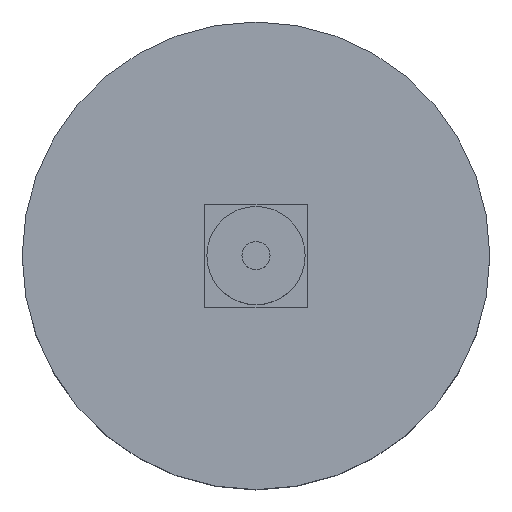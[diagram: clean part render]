
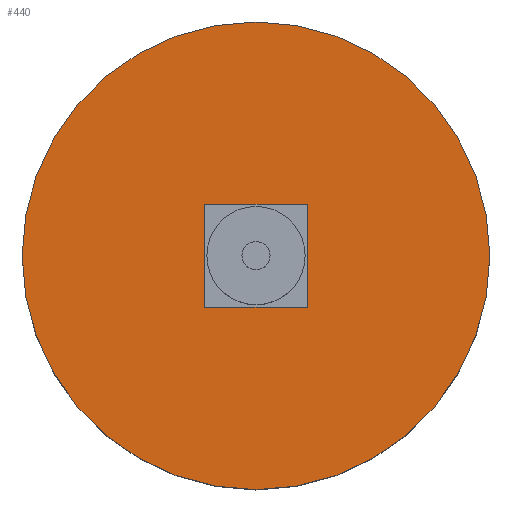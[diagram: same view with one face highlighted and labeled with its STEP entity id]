
A CAD part, top view. The second image highlights one B-rep face of the part: STEP entity #440.
In plain terms, the highlighted planar face has unit normal (0, 0, 1).
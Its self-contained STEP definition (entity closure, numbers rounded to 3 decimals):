
#3 = VECTOR ( 'NONE', #49, 1000. ) ;
#18 = CARTESIAN_POINT ( 'NONE',  ( -11., -11., 44. ) ) ;
#20 = EDGE_CURVE ( 'NONE', #68, #161, #21, .T. ) ;
#21 = LINE ( 'NONE', #163, #23 ) ;
#23 = VECTOR ( 'NONE', #132, 1000. ) ;
#39 = CARTESIAN_POINT ( 'NONE',  ( -11., -11., 44. ) ) ;
#40 = ORIENTED_EDGE ( 'NONE', *, *, #370, .T. ) ;
#42 = ORIENTED_EDGE ( 'NONE', *, *, #20, .F. ) ;
#48 = VERTEX_POINT ( 'NONE', #357 ) ;
#49 = DIRECTION ( 'NONE',  ( 1., 0., 0. ) ) ;
#68 = VERTEX_POINT ( 'NONE', #464 ) ;
#85 = EDGE_CURVE ( 'NONE', #491, #48, #355, .T. ) ;
#92 = DIRECTION ( 'NONE',  ( 1., 0., 0. ) ) ;
#94 = CARTESIAN_POINT ( 'NONE',  ( 11., 11., 44. ) ) ;
#97 = EDGE_CURVE ( 'NONE', #161, #491, #389, .T. ) ;
#105 = PLANE ( 'NONE',  #445 ) ;
#112 = EDGE_LOOP ( 'NONE', ( #40, #266 ) ) ;
#132 = DIRECTION ( 'NONE',  ( 0., -1., 0. ) ) ;
#139 = CARTESIAN_POINT ( 'NONE',  ( 0., 0., 44. ) ) ;
#145 = CARTESIAN_POINT ( 'NONE',  ( 50., 0., 44. ) ) ;
#146 = AXIS2_PLACEMENT_3D ( 'NONE', #213, #254, #92 ) ;
#154 = CIRCLE ( 'NONE', #146, 50. ) ;
#161 = VERTEX_POINT ( 'NONE', #39 ) ;
#163 = CARTESIAN_POINT ( 'NONE',  ( -11., 11., 44. ) ) ;
#195 = CARTESIAN_POINT ( 'NONE',  ( -11., 11., 44. ) ) ;
#213 = CARTESIAN_POINT ( 'NONE',  ( 0., 0., 44. ) ) ;
#226 = EDGE_LOOP ( 'NONE', ( #411, #302, #42, #284 ) ) ;
#254 = DIRECTION ( 'NONE',  ( 0., 0., 1. ) ) ;
#266 = ORIENTED_EDGE ( 'NONE', *, *, #360, .T. ) ;
#278 = DIRECTION ( 'NONE',  ( 0., 1., 0. ) ) ;
#284 = ORIENTED_EDGE ( 'NONE', *, *, #286, .F. ) ;
#286 = EDGE_CURVE ( 'NONE', #48, #68, #303, .T. ) ;
#291 = DIRECTION ( 'NONE',  ( 0., 0., 1. ) ) ;
#302 = ORIENTED_EDGE ( 'NONE', *, *, #97, .F. ) ;
#303 = LINE ( 'NONE', #195, #433 ) ;
#304 = VECTOR ( 'NONE', #278, 1000. ) ;
#305 = VERTEX_POINT ( 'NONE', #426 ) ;
#307 = AXIS2_PLACEMENT_3D ( 'NONE', #139, #291, #472 ) ;
#312 = DIRECTION ( 'NONE',  ( -1., 0., 0. ) ) ;
#331 = CARTESIAN_POINT ( 'NONE',  ( 0., 0., 44. ) ) ;
#333 = FACE_OUTER_BOUND ( 'NONE', #112, .T. ) ;
#338 = DIRECTION ( 'NONE',  ( 1., 0., 0. ) ) ;
#350 = CARTESIAN_POINT ( 'NONE',  ( 11., -11., 44. ) ) ;
#355 = LINE ( 'NONE', #94, #304 ) ;
#357 = CARTESIAN_POINT ( 'NONE',  ( 11., 11., 44. ) ) ;
#360 = EDGE_CURVE ( 'NONE', #416, #305, #439, .T. ) ;
#370 = EDGE_CURVE ( 'NONE', #305, #416, #154, .T. ) ;
#389 = LINE ( 'NONE', #18, #3 ) ;
#407 = DIRECTION ( 'NONE',  ( 0., 0., 1. ) ) ;
#411 = ORIENTED_EDGE ( 'NONE', *, *, #85, .F. ) ;
#416 = VERTEX_POINT ( 'NONE', #145 ) ;
#426 = CARTESIAN_POINT ( 'NONE',  ( -50., 0., 44. ) ) ;
#433 = VECTOR ( 'NONE', #312, 1000. ) ;
#439 = CIRCLE ( 'NONE', #307, 50. ) ;
#440 = ADVANCED_FACE ( 'NONE', ( #441, #333 ), #105, .T. ) ;
#441 = FACE_BOUND ( 'NONE', #226, .T. ) ;
#445 = AXIS2_PLACEMENT_3D ( 'NONE', #331, #407, #338 ) ;
#464 = CARTESIAN_POINT ( 'NONE',  ( -11., 11., 44. ) ) ;
#472 = DIRECTION ( 'NONE',  ( 1., 0., 0. ) ) ;
#491 = VERTEX_POINT ( 'NONE', #350 ) ;
